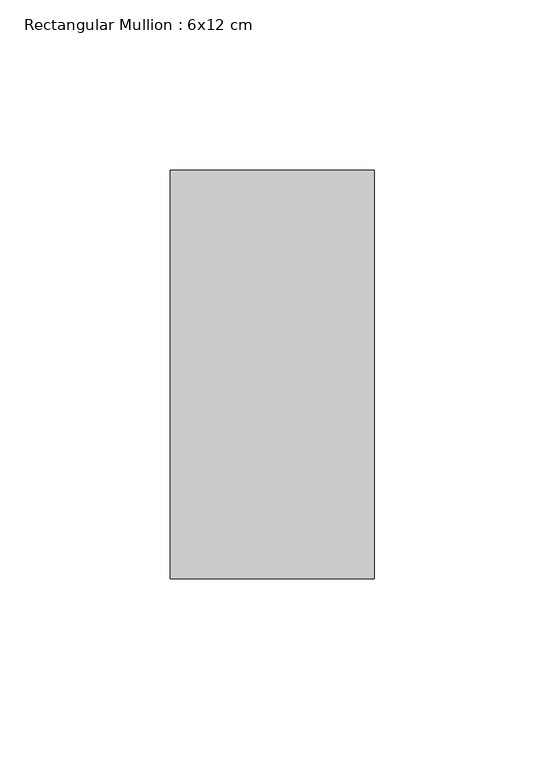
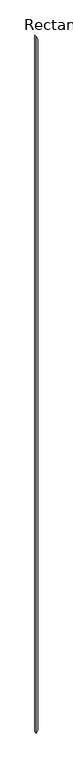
"""IFC4 building model written with IfcOpenShell, lengths in millimetres: member geometry, Rectangular Mullion : 6x12 cm."""

from ifc_helpers import new_model, si_unit, frame, origin, place, context, project, spatial, polyline, outline, extrude, source, transform, mapped, element, save


def rectangular_mullion_6x12_cm_66bdcf5c(model_context):
    return source(origin(), model_context, "Body", "SweptSolid", [
        extrude(outline(polyline([(-104.1141863, 30.0), (25.4423642, -30.0), (-32216.8570555, -30.0), (-32093.4534981, 30.0), (-104.1141863, 30.0)])), frame((0.0, 85.0, 0.0), z_axis=(0.0, 1.0, 0.0), x_axis=(0.0, 0.0, 1.0)), (0.0, 0.0, 1.0), 120.0),
    ])


if __name__ == "__main__":
    model = new_model("IFC4")
    model_context = context("Model", 3, world=origin())
    ifc_project = project(units=[si_unit("LENGTHUNIT", "METRE", prefix="MILLI")], contexts=[model_context])
    site = spatial("IfcSite", under=ifc_project)
    building = spatial("IfcBuilding", under=site)
    placement = place(None, origin())
    rectangular_mullion_6x12_cm_shape = rectangular_mullion_6x12_cm_66bdcf5c(model_context)
    element("IfcMember", 1, ObjectType="Rectangular Mullion : 6x12 cm", at=placement, inside=building, context=model_context, shape_type="MappedRepresentation", body=[
        mapped(rectangular_mullion_6x12_cm_shape, transform((0.0, 0.0, 0.0), x_axis=(1.0, 0.0, 0.0), y_axis=(0.0, 1.0, 0.0), z_axis=(0.0, 0.0, 1.0))),
    ])
    save(model, "model.ifc")
